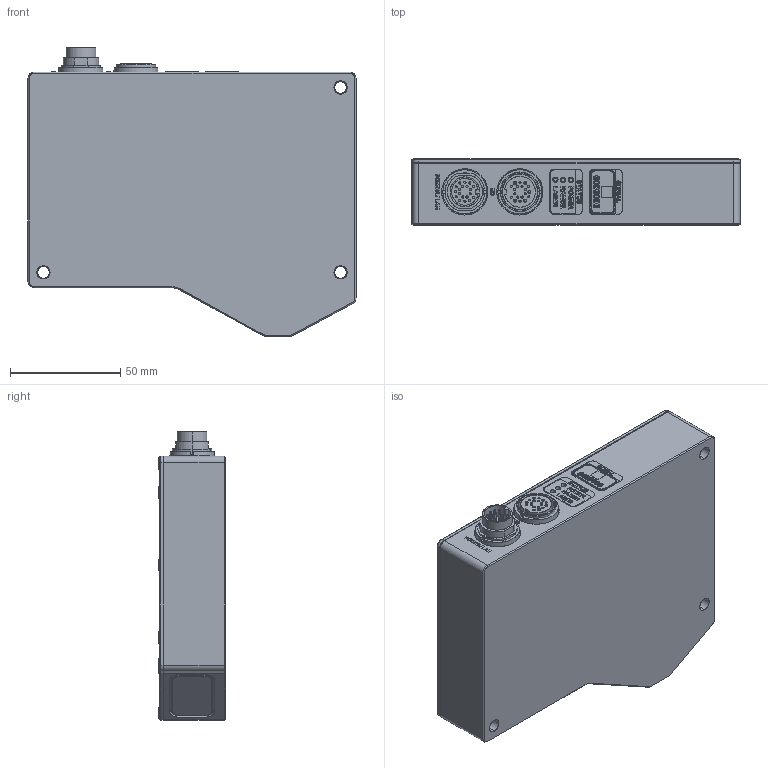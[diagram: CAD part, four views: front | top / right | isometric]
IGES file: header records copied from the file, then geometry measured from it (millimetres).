
Start section: SolidWorks IGES file using analytic representation for surfaces
Global section: file name: C:\_LMI\VAULT\SENSORS\dev\RD\Gocator\Models\1x00\_Base\Documents\Manual Drawings\Gocator_11x0 149mm Sensor 3D Model.IGS; native system: SolidWorks 2012; preprocessor: SolidWorks 2012; author: Jeff; date: 121017.114637; units: millimetre
Bounding box: 149 x 30.11 x 131 mm (x, y, z)
Surface area: 102392.8 mm2 (no closed solid volume)
Topology: 0 solids, 0 shells, 1842 faces, 20941 edges, 20845 vertices
Faces by surface type: bspline 1223, revolution 619
